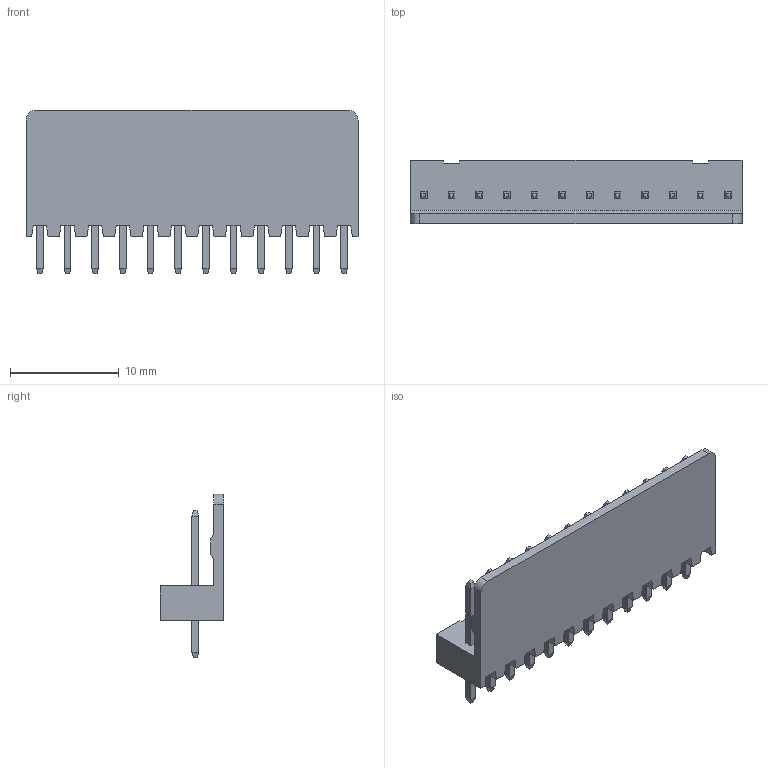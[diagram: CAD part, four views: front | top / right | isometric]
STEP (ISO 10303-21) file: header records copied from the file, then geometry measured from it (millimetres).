
FILE_DESCRIPTION(('CATIA V5 STEP Exchange'),'2;1');
FILE_NAME('F:\黄富鸿\条形连接器\2.50系列\24--2510（宏一）\NA\HC-2510-12A-02（2.54 单排 直针-HCTL）.stp','2025-11-19T01:30:22+00:00',('none'),('none'),'CATIA Version 5 Release 20 GA (IN-10)','CATIA V5 STEP AP203','none');
FILE_SCHEMA(('CONFIG_CONTROL_DESIGN'));
Length unit declared in the file: millimetre
Products named in the file (1): Part1
Bounding box: 30.48 x 5.8 x 15 mm (x, y, z)
Volume: 770.2 mm3; surface area: 1676.1 mm2
Topology: 13 solids, 13 shells, 286 faces, 680 edges, 420 vertices
Faces by surface type: plane 284, cylinder 2
Entity records: 7229 total; most frequent: ORIENTED_EDGE 1360, CARTESIAN_POINT 1346, DIRECTION 882, EDGE_CURVE 680, VECTOR 580, LINE 580, VERTEX_POINT 420, EDGE_LOOP 310
